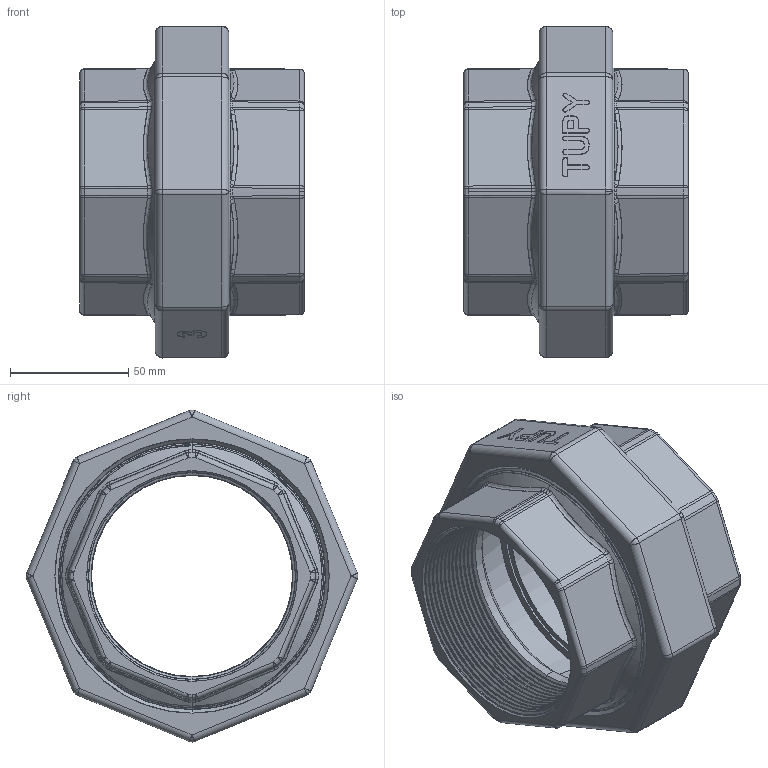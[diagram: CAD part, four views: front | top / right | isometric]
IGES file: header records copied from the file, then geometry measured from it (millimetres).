
Start section: SolidWorks IGES file using analytic representation for surfaces
Global section: file name: C:\Users\Joel Rosa\Desktop\Tubulação\12-63-X\12-63-012.IGS; native system: SolidWorks 2011; preprocessor: SolidWorks 2011; author: Joel Rosa; date: 130721.141838; units: millimetre
Bounding box: 95 x 140.21 x 140.22 mm (x, y, z)
Surface area: 127585.3 mm2 (no closed solid volume)
Topology: 0 solids, 0 shells, 810 faces, 5938 edges, 5932 vertices
Faces by surface type: bspline 527, revolution 283
